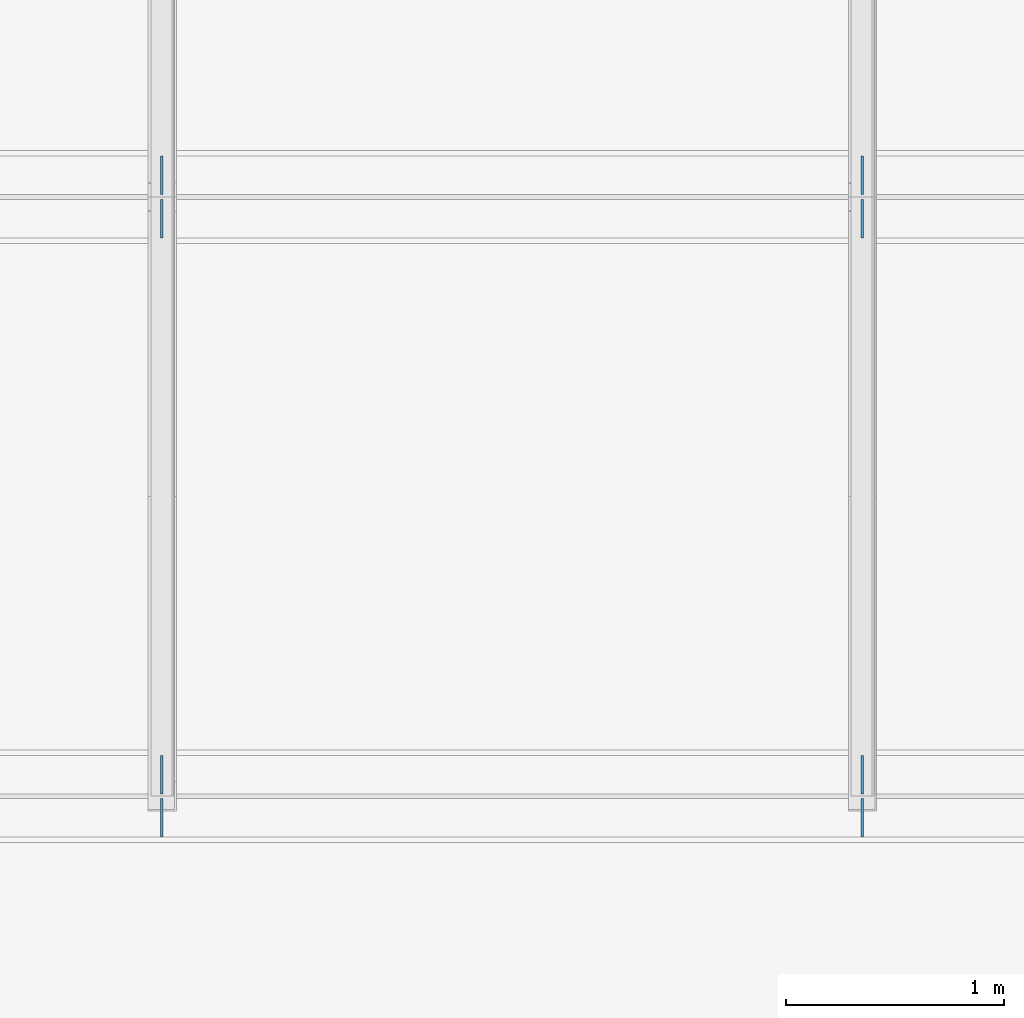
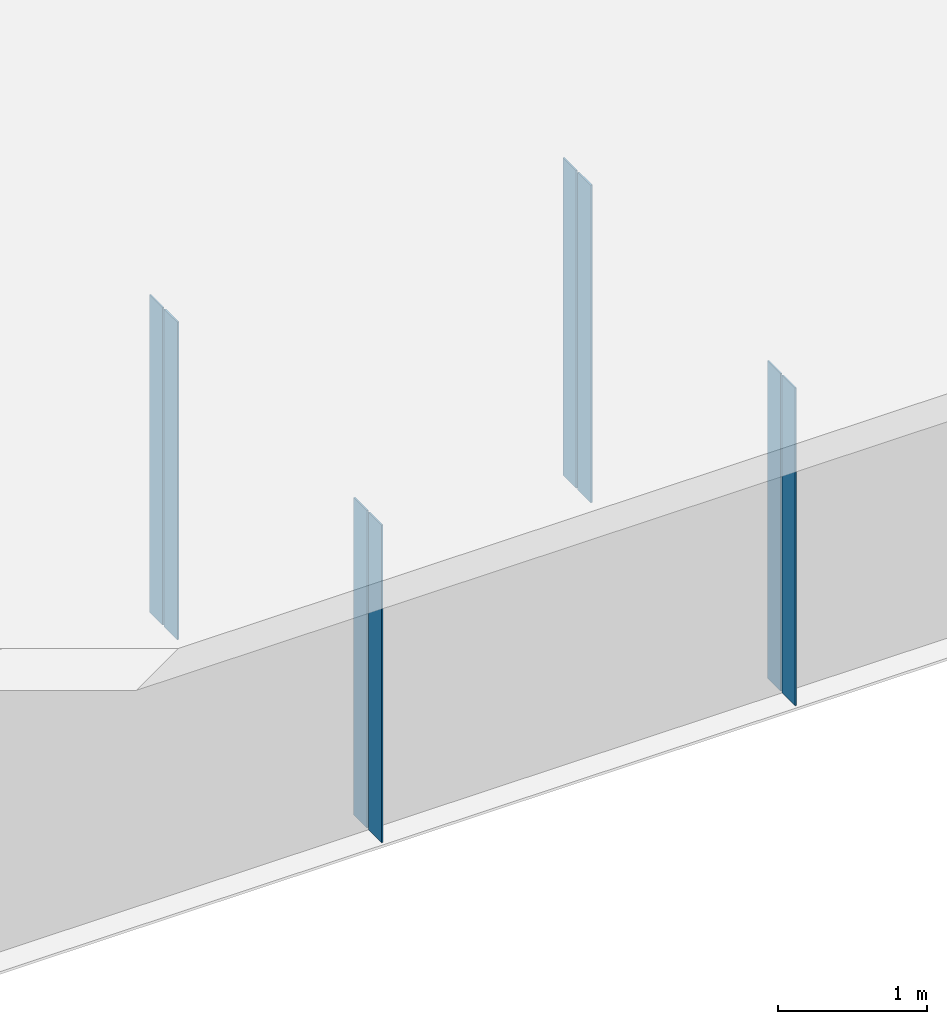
# One storey, part 4 of 13: 8 plates.
"""IFC4 building model written with IfcOpenShell, lengths in metres."""

from ifc_helpers import new_model, si_unit, frame, origin, origin_with_axes, origin_2d_with_axis, place, context, subcontext, project, spatial, rectangle, extrude, element, save


model = new_model("IFC4")

# Units and contexts
model_context = context("Model", 3, precision=1e-05, world=origin())
body_context = subcontext(model_context, "Body", "Model", "MODEL_VIEW")
ifc_project = project(units=[si_unit("LENGTHUNIT", "METRE"), si_unit("AREAUNIT", "SQUARE_METRE"), si_unit("VOLUMEUNIT", "CUBIC_METRE"), si_unit("PLANEANGLEUNIT", "RADIAN")], contexts=[model_context])

# Site, building, storey
site_placement = place(None, origin_with_axes())
site = spatial("IfcSite", under=ifc_project, at=site_placement, Name="Default Site")
building_placement = place(site_placement, origin_with_axes())
building = spatial("IfcBuilding", under=site, at=building_placement, Name="Bridge Structure")
storey_placement = place(building_placement, origin_with_axes())
storey = spatial("IfcBuildingStorey", under=building, at=storey_placement, Name="Superstructure")

# Plates
for number, where, z_axis, x_axis, name in (
    (1, (16.07, -4.02575, -1.305), (0.0, 0.0, 1.0), (1.0, 0.0, 0.0), "Intermediate Stiffener 1"),
    (2, (16.07, -4.2242500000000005, -1.305), (0.0, 0.0, 1.0), (1.0, 0.0, 0.0), "Intermediate Stiffener 1"),
    (3, (19.284, -4.02575, -1.305), (0.0, 0.0, 1.0), (1.0, 0.0, 0.0), "Intermediate Stiffener 1"),
    (4, (19.284, -4.2242500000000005, -1.305), (0.0, 0.0, 1.0), (1.0, 0.0, 0.0), "Intermediate Stiffener 1"),
    (5, (16.07, -1.27575, -1.305), (0.0, 0.0, 1.0), (1.0, 0.0, 0.0), "Intermediate Stiffener 2"),
    (6, (16.07, -1.47425, -1.305), (0.0, 0.0, 1.0), (1.0, 0.0, 0.0), "Intermediate Stiffener 2"),
    (7, (19.284, -1.27575, -1.305), (0.0, 0.0, 1.0), (1.0, 0.0, 0.0), "Intermediate Stiffener 2"),
    (8, (19.284, -1.47425, -1.305), (0.0, 0.0, 1.0), (1.0, 0.0, 0.0), "Intermediate Stiffener 2"),
):
    element("IfcPlate", number, at=place(storey_placement, frame(where, z_axis=z_axis, x_axis=x_axis)), inside=storey, Name=name, context=body_context, shape_type="SweptSolid", body=[
        extrude(rectangle(XDim=0.012, YDim=0.1765, at=origin_2d_with_axis()), origin_with_axes(), (0.0, 0.0, 1.0), 2.61),
    ])

save(model, "model.ifc")
